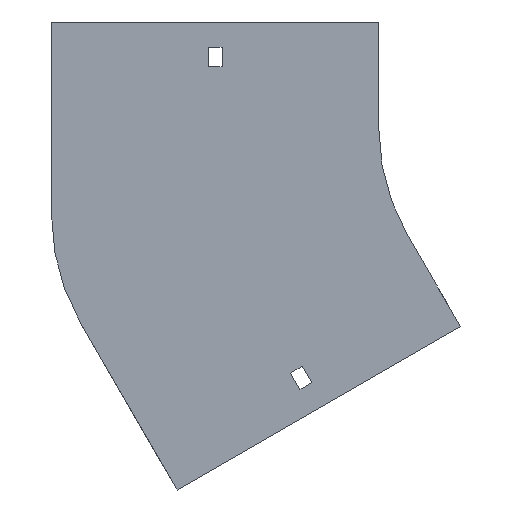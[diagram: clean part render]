
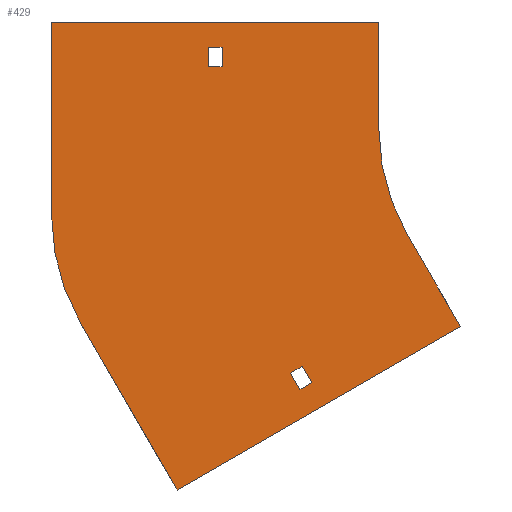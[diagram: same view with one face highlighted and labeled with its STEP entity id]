
A CAD part, front view. The second image highlights one B-rep face of the part: STEP entity #429.
In plain terms, the highlighted planar face has unit normal (0, -1, 0).
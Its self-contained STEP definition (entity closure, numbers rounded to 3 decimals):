
#14 = EDGE_LOOP ( 'NONE', ( #1889, #434, #511, #212 ) ) ;
#31 = EDGE_CURVE ( 'NONE', #1157, #92, #1916, .T. ) ;
#38 = VECTOR ( 'NONE', #789, 1000. ) ;
#92 = VERTEX_POINT ( 'NONE', #1589 ) ;
#95 = ORIENTED_EDGE ( 'NONE', *, *, #1651, .F. ) ;
#97 = LINE ( 'NONE', #1755, #582 ) ;
#118 = CARTESIAN_POINT ( 'NONE',  ( -86.603, 0., -50. ) ) ;
#119 = EDGE_CURVE ( 'NONE', #1282, #1234, #1317, .T. ) ;
#131 = VECTOR ( 'NONE', #991, 1000. ) ;
#136 = VERTEX_POINT ( 'NONE', #856 ) ;
#168 = EDGE_CURVE ( 'NONE', #1234, #566, #1474, .T. ) ;
#212 = ORIENTED_EDGE ( 'NONE', *, *, #1598, .T. ) ;
#220 = EDGE_CURVE ( 'NONE', #937, #1212, #284, .T. ) ;
#277 = VECTOR ( 'NONE', #905, 1000. ) ;
#284 = LINE ( 'NONE', #1181, #419 ) ;
#307 = VERTEX_POINT ( 'NONE', #1356 ) ;
#323 = LINE ( 'NONE', #893, #38 ) ;
#354 = ORIENTED_EDGE ( 'NONE', *, *, #1510, .F. ) ;
#359 = FACE_BOUND ( 'NONE', #1899, .T. ) ;
#362 = CARTESIAN_POINT ( 'NONE',  ( -173.75, 0., 29. ) ) ;
#371 = CARTESIAN_POINT ( 'NONE',  ( -100., 0., 50. ) ) ;
#374 = DIRECTION ( 'NONE',  ( -0.5, 0., 0.866 ) ) ;
#383 = VECTOR ( 'NONE', #1133, 1000. ) ;
#390 = CIRCLE ( 'NONE', #1398, 100. ) ;
#394 = DIRECTION ( 'NONE',  ( -0.5, 0., 0.866 ) ) ;
#398 = VERTEX_POINT ( 'NONE', #1861 ) ;
#419 = VECTOR ( 'NONE', #1377, 1000. ) ;
#429 = ADVANCED_FACE ( 'NONE', ( #1833, #1873, #359 ), #961, .T. ) ;
#434 = ORIENTED_EDGE ( 'NONE', *, *, #645, .T. ) ;
#437 = EDGE_CURVE ( 'NONE', #92, #485, #1687, .T. ) ;
#444 = VECTOR ( 'NONE', #374, 1000. ) ;
#485 = VERTEX_POINT ( 'NONE', #549 ) ;
#504 = LINE ( 'NONE', #1703, #383 ) ;
#511 = ORIENTED_EDGE ( 'NONE', *, *, #220, .T. ) ;
#514 = CARTESIAN_POINT ( 'NONE',  ( -154., 0., -41.264 ) ) ;
#524 = DIRECTION ( 'NONE',  ( 0., 0., -1. ) ) ;
#527 = CARTESIAN_POINT ( 'NONE',  ( -131.472, 0., -119.784 ) ) ;
#528 = VERTEX_POINT ( 'NONE', #1773 ) ;
#542 = DIRECTION ( 'NONE',  ( 0.5, 0., -0.866 ) ) ;
#546 = ORIENTED_EDGE ( 'NONE', *, *, #1390, .F. ) ;
#549 = CARTESIAN_POINT ( 'NONE',  ( -100., 0., 0. ) ) ;
#555 = DIRECTION ( 'NONE',  ( 1., 0., 0. ) ) ;
#560 = CARTESIAN_POINT ( 'NONE',  ( -137.101, 0., -123.034 ) ) ;
#563 = CARTESIAN_POINT ( 'NONE',  ( -254., 0., 50. ) ) ;
#566 = VERTEX_POINT ( 'NONE', #1007 ) ;
#582 = VECTOR ( 'NONE', #698, 1000. ) ;
#583 = CARTESIAN_POINT ( 'NONE',  ( -135.972, 0., -111.99 ) ) ;
#594 = VECTOR ( 'NONE', #969, 1000. ) ;
#616 = ORIENTED_EDGE ( 'NONE', *, *, #1198, .F. ) ;
#643 = VECTOR ( 'NONE', #1843, 1000. ) ;
#645 = EDGE_CURVE ( 'NONE', #1024, #937, #1055, .T. ) ;
#664 = CARTESIAN_POINT ( 'NONE',  ( -180.25, 0., 29. ) ) ;
#667 = VECTOR ( 'NONE', #759, 1000. ) ;
#669 = DIRECTION ( 'NONE',  ( 0., 0., 1. ) ) ;
#698 = DIRECTION ( 'NONE',  ( -0.866, 0., -0.5 ) ) ;
#754 = VERTEX_POINT ( 'NONE', #664 ) ;
#759 = DIRECTION ( 'NONE',  ( 0.5, 0., -0.866 ) ) ;
#787 = CARTESIAN_POINT ( 'NONE',  ( 0., 0., 0. ) ) ;
#789 = DIRECTION ( 'NONE',  ( 0., 0., 1. ) ) ;
#798 = CARTESIAN_POINT ( 'NONE',  ( 0., 0., 0. ) ) ;
#799 = DIRECTION ( 'NONE',  ( 0., 0., -1. ) ) ;
#816 = DIRECTION ( 'NONE',  ( 0., -1., 0. ) ) ;
#820 = CARTESIAN_POINT ( 'NONE',  ( -194.97, 0., -170.301 ) ) ;
#856 = CARTESIAN_POINT ( 'NONE',  ( -254., 0., -41.264 ) ) ;
#893 = CARTESIAN_POINT ( 'NONE',  ( -254., 0., -41.264 ) ) ;
#901 = CARTESIAN_POINT ( 'NONE',  ( -180.25, 0., 29. ) ) ;
#905 = DIRECTION ( 'NONE',  ( 1., 0., 0. ) ) ;
#922 = DIRECTION ( 'NONE',  ( 0., 0., 1. ) ) ;
#937 = VERTEX_POINT ( 'NONE', #1458 ) ;
#941 = LINE ( 'NONE', #1533, #643 ) ;
#945 = VECTOR ( 'NONE', #922, 1000. ) ;
#961 = PLANE ( 'NONE',  #1854 ) ;
#969 = DIRECTION ( 'NONE',  ( 0., 0., -1. ) ) ;
#974 = EDGE_LOOP ( 'NONE', ( #1166, #1376, #354, #1493, #616, #546, #1881, #1235 ) ) ;
#982 = CARTESIAN_POINT ( 'NONE',  ( -254., 0., 50. ) ) ;
#991 = DIRECTION ( 'NONE',  ( 0.866, 0., 0.5 ) ) ;
#998 = CARTESIAN_POINT ( 'NONE',  ( -141.601, 0., -115.24 ) ) ;
#1007 = CARTESIAN_POINT ( 'NONE',  ( -135.972, 0., -111.99 ) ) ;
#1024 = VERTEX_POINT ( 'NONE', #1043 ) ;
#1025 = VECTOR ( 'NONE', #555, 1000. ) ;
#1035 = VECTOR ( 'NONE', #394, 1000. ) ;
#1043 = CARTESIAN_POINT ( 'NONE',  ( -180.25, 0., 38. ) ) ;
#1053 = EDGE_CURVE ( 'NONE', #136, #1157, #323, .T. ) ;
#1055 = LINE ( 'NONE', #1187, #277 ) ;
#1076 = EDGE_CURVE ( 'NONE', #754, #1024, #1835, .T. ) ;
#1084 = VERTEX_POINT ( 'NONE', #1504 ) ;
#1096 = ORIENTED_EDGE ( 'NONE', *, *, #119, .F. ) ;
#1127 = EDGE_CURVE ( 'NONE', #1084, #1194, #1735, .T. ) ;
#1133 = DIRECTION ( 'NONE',  ( -0.866, 0., -0.5 ) ) ;
#1146 = CIRCLE ( 'NONE', #1749, 100. ) ;
#1157 = VERTEX_POINT ( 'NONE', #982 ) ;
#1166 = ORIENTED_EDGE ( 'NONE', *, *, #31, .F. ) ;
#1181 = CARTESIAN_POINT ( 'NONE',  ( -173.75, 0., 29. ) ) ;
#1187 = CARTESIAN_POINT ( 'NONE',  ( -180.25, 0., 38. ) ) ;
#1194 = VERTEX_POINT ( 'NONE', #1857 ) ;
#1198 = EDGE_CURVE ( 'NONE', #307, #1084, #504, .T. ) ;
#1212 = VERTEX_POINT ( 'NONE', #362 ) ;
#1234 = VERTEX_POINT ( 'NONE', #527 ) ;
#1235 = ORIENTED_EDGE ( 'NONE', *, *, #437, .F. ) ;
#1282 = VERTEX_POINT ( 'NONE', #1327 ) ;
#1300 = VECTOR ( 'NONE', #542, 1000. ) ;
#1317 = LINE ( 'NONE', #560, #131 ) ;
#1327 = CARTESIAN_POINT ( 'NONE',  ( -137.101, 0., -123.034 ) ) ;
#1356 = CARTESIAN_POINT ( 'NONE',  ( -61.603, 0., -93.301 ) ) ;
#1376 = ORIENTED_EDGE ( 'NONE', *, *, #1053, .F. ) ;
#1377 = DIRECTION ( 'NONE',  ( 0., 0., -1. ) ) ;
#1390 = EDGE_CURVE ( 'NONE', #398, #307, #1607, .T. ) ;
#1398 = AXIS2_PLACEMENT_3D ( 'NONE', #514, #1722, #669 ) ;
#1412 = ORIENTED_EDGE ( 'NONE', *, *, #1770, .F. ) ;
#1458 = CARTESIAN_POINT ( 'NONE',  ( -173.75, 0., 38. ) ) ;
#1474 = LINE ( 'NONE', #583, #1035 ) ;
#1493 = ORIENTED_EDGE ( 'NONE', *, *, #1127, .F. ) ;
#1504 = CARTESIAN_POINT ( 'NONE',  ( -194.97, 0., -170.301 ) ) ;
#1510 = EDGE_CURVE ( 'NONE', #1194, #136, #390, .T. ) ;
#1533 = CARTESIAN_POINT ( 'NONE',  ( -180.25, 0., 29. ) ) ;
#1544 = DIRECTION ( 'NONE',  ( 0., -1., 0. ) ) ;
#1589 = CARTESIAN_POINT ( 'NONE',  ( -100., 0., 50. ) ) ;
#1598 = EDGE_CURVE ( 'NONE', #1212, #754, #941, .T. ) ;
#1607 = LINE ( 'NONE', #118, #667 ) ;
#1639 = EDGE_CURVE ( 'NONE', #485, #398, #1146, .T. ) ;
#1645 = ORIENTED_EDGE ( 'NONE', *, *, #168, .F. ) ;
#1651 = EDGE_CURVE ( 'NONE', #528, #1282, #1774, .T. ) ;
#1687 = LINE ( 'NONE', #371, #594 ) ;
#1703 = CARTESIAN_POINT ( 'NONE',  ( -61.603, 0., -93.301 ) ) ;
#1722 = DIRECTION ( 'NONE',  ( 0., 1., 0. ) ) ;
#1735 = LINE ( 'NONE', #820, #444 ) ;
#1749 = AXIS2_PLACEMENT_3D ( 'NONE', #787, #1544, #799 ) ;
#1755 = CARTESIAN_POINT ( 'NONE',  ( -141.601, 0., -115.24 ) ) ;
#1770 = EDGE_CURVE ( 'NONE', #566, #528, #97, .T. ) ;
#1773 = CARTESIAN_POINT ( 'NONE',  ( -141.601, 0., -115.24 ) ) ;
#1774 = LINE ( 'NONE', #998, #1300 ) ;
#1833 = FACE_BOUND ( 'NONE', #14, .T. ) ;
#1835 = LINE ( 'NONE', #901, #945 ) ;
#1843 = DIRECTION ( 'NONE',  ( -1., 0., 0. ) ) ;
#1854 = AXIS2_PLACEMENT_3D ( 'NONE', #798, #816, #524 ) ;
#1857 = CARTESIAN_POINT ( 'NONE',  ( -240.603, 0., -91.264 ) ) ;
#1861 = CARTESIAN_POINT ( 'NONE',  ( -86.603, 0., -50. ) ) ;
#1873 = FACE_OUTER_BOUND ( 'NONE', #974, .T. ) ;
#1881 = ORIENTED_EDGE ( 'NONE', *, *, #1639, .F. ) ;
#1889 = ORIENTED_EDGE ( 'NONE', *, *, #1076, .T. ) ;
#1899 = EDGE_LOOP ( 'NONE', ( #1096, #95, #1412, #1645 ) ) ;
#1916 = LINE ( 'NONE', #563, #1025 ) ;
